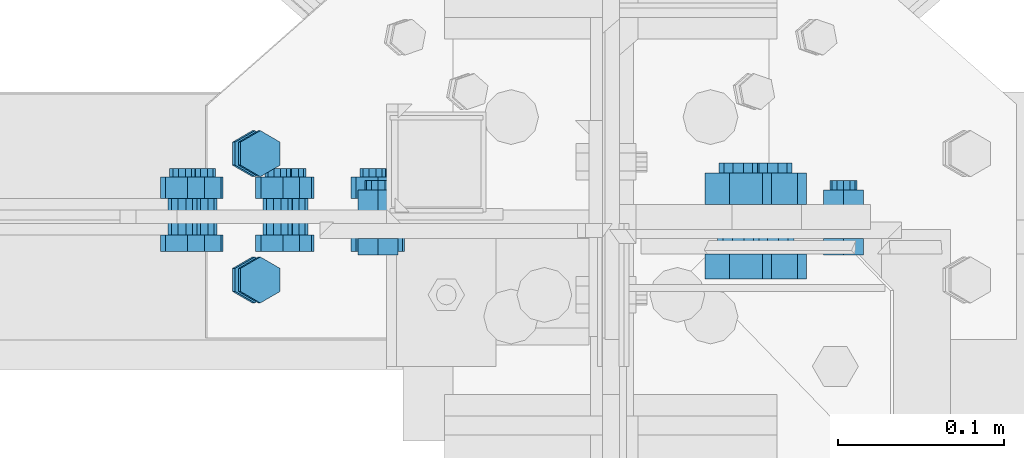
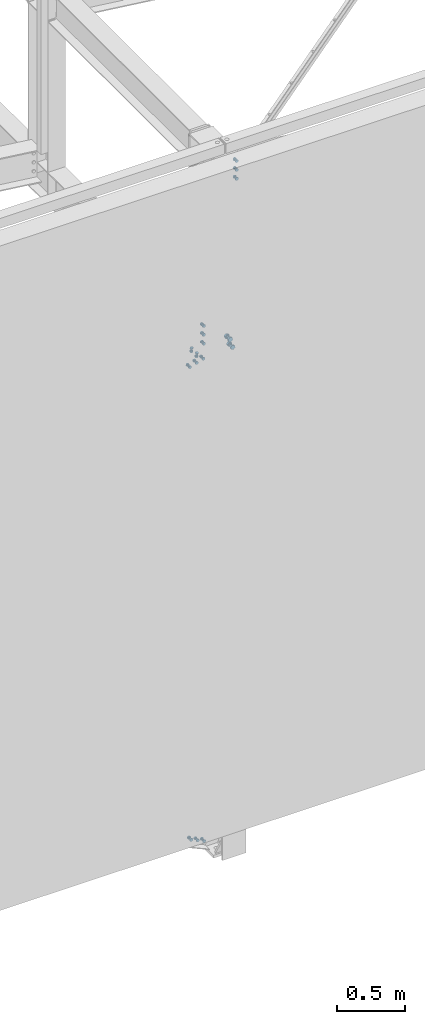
# One storey, part 124 of 3134: 6 mechanical fasteners, 5 elements without a shape of their own.
"""IFC2X3 building model written with IfcOpenShell, lengths in millimetres."""

from ifc_helpers import new_model, si_unit, frame, origin_with_axes, place, context, subcontext, project, spatial, faceted_brep, source, transform, mapped, material, type_object, element, aggregate, save


model = new_model("IFC2X3")

# Units and contexts
model_context = context("Model", 3, precision=1e-05, world=origin_with_axes())
body_context = subcontext(model_context, "Body", "Model", "MODEL_VIEW")
ifc_project = project(units=[si_unit("LENGTHUNIT", "METRE", prefix="MILLI"), si_unit("AREAUNIT", "SQUARE_METRE"), si_unit("VOLUMEUNIT", "CUBIC_METRE"), si_unit("MASSUNIT", "GRAM", prefix="KILO"), si_unit("TIMEUNIT", "SECOND"), si_unit("PLANEANGLEUNIT", "RADIAN"), si_unit("SOLIDANGLEUNIT", "STERADIAN"), si_unit("THERMODYNAMICTEMPERATUREUNIT", "DEGREE_CELSIUS"), si_unit("LUMINOUSINTENSITYUNIT", "LUMEN")], contexts=[model_context])

# Site, building, storey
site_placement = place(None, origin_with_axes())
site = spatial("IfcSite", under=ifc_project, at=site_placement, CompositionType="ELEMENT")
building_placement = place(site_placement, origin_with_axes())
building = spatial("IfcBuilding", under=site, at=building_placement, Name="Undefined", CompositionType="ELEMENT")
storey_placement = place(building_placement, origin_with_axes())
storey = spatial("IfcBuildingStorey", under=building, at=storey_placement, Name="Undefined", CompositionType="ELEMENT", Elevation=0.0)

# Assembly, mechanical fastener
assembly_1_placement = place(storey_placement, origin_with_axes())
assembly_1 = element("IfcElementAssembly", 1, at=assembly_1_placement, inside=storey, Name="300", AssemblyPlace="NOTDEFINED", PredefinedType="RIGID_FRAME")
ifc_material = material(Name="8.8")
mechanical_fastener_type = type_object("IfcMechanicalFastenerType", Name="Bolt assembly")
shared_shape_1 = source(origin_with_axes(), body_context, "Body", "Brep", [
    faceted_brep([(13.856406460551, -23.0499999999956, 0.0), (6.92820323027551, -23.0499999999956, 12.0), (-6.92820323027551, -23.0499999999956, 12.0), (-13.856406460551, -23.0499999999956, 1.69692038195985e-15), (-6.92820323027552, -23.0499999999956, -12.0), (6.9282032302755, -23.0499999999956, -12.0), (6.9282032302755, -13.0499999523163, -12.0), (-6.92820323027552, -13.0499999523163, -12.0), (-13.856406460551, -13.0499999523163, 1.69692038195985e-15), (-6.92820323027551, -13.0499999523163, 12.0), (6.92820323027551, -13.0499999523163, 12.0), (13.856406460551, -13.0499999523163, 0.0), (8.0, -13.0499999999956, 0.0), (6.92820323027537, -13.0499999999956, 4.00000000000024), (3.99999999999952, -13.0499999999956, 6.92820323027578), (-8.29068785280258e-13, -13.0499999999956, 8.0), (-4.00000000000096, -13.0499999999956, 6.92820323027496), (-6.9282032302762, -13.0499999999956, 3.99999999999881), (-8.0, -13.0499999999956, -1.65813757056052e-12), (-6.92820323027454, -13.0499999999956, -4.00000000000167), (-3.99999999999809, -13.0499999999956, -6.92820323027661), (2.47832457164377e-12, -13.0499999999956, -8.0), (4.00000000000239, -13.0499999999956, -6.92820323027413), (6.92820323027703, -13.0499999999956, -3.99999999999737), (6.92820323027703, 21.9500000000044, -3.99999999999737), (4.00000000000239, 21.9500000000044, -6.92820323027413), (2.47832457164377e-12, 21.9500000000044, -8.0), (-3.99999999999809, 21.9500000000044, -6.92820323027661), (-6.92820323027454, 21.9500000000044, -4.00000000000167), (-8.0, 21.9500000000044, -1.65813757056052e-12), (-6.9282032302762, 21.9500000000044, 3.99999999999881), (-4.00000000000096, 21.9500000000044, 6.92820323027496), (-8.29068785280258e-13, 21.9500000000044, 8.0), (3.99999999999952, 21.9500000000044, 6.92820323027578), (6.92820323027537, 21.9500000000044, 4.00000000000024), (8.0, 21.9500000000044, 0.0), (13.856406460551, 3.04999995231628, 0.0), (6.92820323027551, 3.04999995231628, 12.0), (-6.92820323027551, 3.04999995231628, 12.0), (-13.856406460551, 3.04999995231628, 1.69692038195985e-15), (-6.92820323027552, 3.04999995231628, -12.0), (6.9282032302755, 3.04999995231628, -12.0), (6.9282032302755, 16.0499999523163, -12.0), (-6.92820323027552, 16.0499999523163, -12.0), (-13.856406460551, 16.0499999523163, 1.69692038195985e-15), (-6.92820323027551, 16.0499999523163, 12.0), (6.92820323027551, 16.0499999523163, 12.0), (13.856406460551, 16.0499999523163, 0.0)], [[[0, 1, 2, 3, 4, 5]], [[6, 7, 8, 9, 10, 11]], [[0, 11, 10, 1]], [[1, 10, 9, 2]], [[2, 9, 8, 3]], [[3, 8, 7, 4]], [[4, 7, 6, 5]], [[5, 6, 11, 0]], [[12, 13, 14, 15, 16, 17, 18, 19, 20, 21, 22, 23]], [[24, 25, 26, 27, 28, 29, 30, 31, 32, 33, 34, 35]], [[12, 35, 34, 13]], [[13, 34, 33, 14]], [[14, 33, 32, 15]], [[15, 32, 31, 16]], [[16, 31, 30, 17]], [[17, 30, 29, 18]], [[18, 29, 28, 19]], [[19, 28, 27, 20]], [[20, 27, 26, 21]], [[21, 26, 25, 22]], [[22, 25, 24, 23]], [[23, 24, 35, 12]], [[36, 37, 38, 39, 40, 41]], [[42, 43, 44, 45, 46, 47]], [[36, 47, 46, 37]], [[37, 46, 45, 38]], [[38, 45, 44, 39]], [[39, 44, 43, 40]], [[40, 43, 42, 41]], [[41, 42, 47, 36]]]),
    faceted_brep([(9.0, -12.9499999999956, 0.0), (7.79422863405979, -12.9499999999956, 4.50000000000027), (4.49999999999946, -12.9499999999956, 7.79422863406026), (-9.3270238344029e-13, -12.9499999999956, 9.0), (-4.50000000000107, -12.9499999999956, 7.79422863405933), (-7.79422863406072, -12.9499999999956, 4.49999999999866), (-9.0, -12.9499999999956, -1.86540476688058e-12), (-7.79422863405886, -12.9499999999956, -4.50000000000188), (-4.49999999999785, -12.9499999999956, -7.79422863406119), (2.78811514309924e-12, -12.9499999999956, -9.0), (4.50000000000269, -12.9499999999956, -7.7942286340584), (7.79422863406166, -12.9499999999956, -4.49999999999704), (7.79422863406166, -2.94999995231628, -4.49999999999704), (4.50000000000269, -2.94999995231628, -7.7942286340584), (2.78811514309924e-12, -2.94999995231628, -9.0), (-4.49999999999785, -2.94999995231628, -7.79422863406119), (-7.79422863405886, -2.94999995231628, -4.50000000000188), (-9.0, -2.94999995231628, -1.86540476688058e-12), (-7.79422863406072, -2.94999995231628, 4.49999999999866), (-4.50000000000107, -2.94999995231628, 7.79422863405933), (-9.3270238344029e-13, -2.94999995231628, 9.0), (4.49999999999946, -2.94999995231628, 7.79422863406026), (7.79422863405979, -2.94999995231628, 4.50000000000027), (9.0, -2.94999995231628, 0.0), (9.0, -3.14999995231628, 0.0), (7.79422863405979, -3.14999995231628, 4.50000000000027), (4.49999999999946, -3.14999995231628, 7.79422863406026), (-9.3270238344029e-13, -3.14999995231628, 9.0), (-4.50000000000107, -3.14999995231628, 7.79422863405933), (-7.79422863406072, -3.14999995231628, 4.49999999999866), (-9.0, -3.14999995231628, -1.86540476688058e-12), (-7.79422863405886, -3.14999995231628, -4.50000000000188), (-4.49999999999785, -3.14999995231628, -7.79422863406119), (2.78811514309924e-12, -3.14999995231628, -9.0), (4.50000000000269, -3.14999995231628, -7.7942286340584), (7.79422863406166, -3.14999995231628, -4.49999999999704), (7.79422863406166, 3.04999995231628, -4.49999999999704), (4.50000000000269, 3.04999995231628, -7.7942286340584), (2.78811514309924e-12, 3.04999995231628, -9.0), (-4.49999999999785, 3.04999995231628, -7.79422863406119), (-7.79422863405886, 3.04999995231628, -4.50000000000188), (-9.0, 3.04999995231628, -1.86540476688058e-12), (-7.79422863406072, 3.04999995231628, 4.49999999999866), (-4.50000000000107, 3.04999995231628, 7.79422863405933), (-9.3270238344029e-13, 3.04999995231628, 9.0), (4.49999999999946, 3.04999995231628, 7.79422863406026), (7.79422863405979, 3.04999995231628, 4.50000000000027), (9.0, 3.04999995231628, 0.0)], [[[0, 1, 2, 3, 4, 5, 6, 7, 8, 9, 10, 11]], [[12, 13, 14, 15, 16, 17, 18, 19, 20, 21, 22, 23]], [[0, 23, 22, 1]], [[1, 22, 21, 2]], [[2, 21, 20, 3]], [[3, 20, 19, 4]], [[4, 19, 18, 5]], [[5, 18, 17, 6]], [[6, 17, 16, 7]], [[7, 16, 15, 8]], [[8, 15, 14, 9]], [[9, 14, 13, 10]], [[10, 13, 12, 11]], [[11, 12, 23, 0]], [[24, 25, 26, 27, 28, 29, 30, 31, 32, 33, 34, 35]], [[36, 37, 38, 39, 40, 41, 42, 43, 44, 45, 46, 47]], [[24, 47, 46, 25]], [[25, 46, 45, 26]], [[26, 45, 44, 27]], [[27, 44, 43, 28]], [[28, 43, 42, 29]], [[29, 42, 41, 30]], [[30, 41, 40, 31]], [[31, 40, 39, 32]], [[32, 39, 38, 33]], [[33, 38, 37, 34]], [[34, 37, 36, 35]], [[35, 36, 47, 24]]]),
])
mechanical_fastener_1_placement = place(assembly_1_placement, frame((55735.0000000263, 0.0, 4340.49269268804), z_axis=(1.0, 0.0, 0.0), x_axis=(0.0, 0.0, -1.0)))
mechanical_fastener_1 = element("IfcMechanicalFastener", 2, at=mechanical_fastener_1_placement, type_object=mechanical_fastener_type, material=ifc_material, Name="Bolt assembly", NominalDiameter=16.0, NominalLength=35.0, context=body_context, shape_type="MappedRepresentation", body=[
    mapped(shared_shape_1, transform((0.0, 0.0, 0.0))),
    mapped(shared_shape_1, transform((80.0, 0.0, 0.0))),
    mapped(shared_shape_1, transform((160.0, 0.0, 0.0))),
])

assembly_2_placement = place(storey_placement, origin_with_axes())
assembly_2 = element("IfcElementAssembly", 3, at=assembly_2_placement, inside=storey, Name="300", AssemblyPlace="NOTDEFINED", PredefinedType="RIGID_FRAME")
mechanical_fastener_2_placement = place(assembly_2_placement, frame((56015.0041779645, 0.0, 5732.29610612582), z_axis=(1.0, 0.0, 0.0), x_axis=(0.0, 0.0, -1.0)))
mechanical_fastener_2 = element("IfcMechanicalFastener", 4, at=mechanical_fastener_2_placement, type_object=mechanical_fastener_type, material=ifc_material, Name="Bolt assembly", NominalDiameter=16.0, NominalLength=35.0, context=body_context, shape_type="MappedRepresentation", body=[
    mapped(shared_shape_1, transform((0.0, 0.0, 0.0))),
    mapped(shared_shape_1, transform((80.0, 0.0, 0.0))),
    mapped(shared_shape_1, transform((160.0, 0.0, 0.0))),
])
aggregate(assembly_2, [mechanical_fastener_2])

assembly_3_placement = place(storey_placement, origin_with_axes())
assembly_3 = element("IfcElementAssembly", 5, at=assembly_3_placement, inside=storey, AssemblyPlace="NOTDEFINED", PredefinedType="RIGID_FRAME")
shared_shape_2 = source(origin_with_axes(), body_context, "Body", "Brep", [
    faceted_brep([(13.856406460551, -21.0000017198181, 0.0), (6.92820323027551, -21.0000017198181, 12.0), (-6.92820323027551, -21.0000017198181, 12.0), (-13.856406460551, -21.0000017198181, 1.69692038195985e-15), (-6.92820323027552, -21.0000017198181, -12.0), (6.9282032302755, -21.0000017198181, -12.0), (6.9282032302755, -11.0000017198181, -12.0), (-6.92820323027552, -11.0000017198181, -12.0), (-13.856406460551, -11.0000017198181, 1.69692038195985e-15), (-6.92820323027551, -11.0000017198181, 12.0), (6.92820323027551, -11.0000017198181, 12.0), (13.856406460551, -11.0000017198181, 0.0), (8.0, -11.0000017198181, 0.0), (6.92820323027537, -11.0000017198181, 4.00000000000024), (3.99999999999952, -11.0000017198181, 6.92820323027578), (-8.29068785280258e-13, -11.0000017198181, 8.0), (-4.00000000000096, -11.0000017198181, 6.92820323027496), (-6.9282032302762, -11.0000017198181, 3.99999999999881), (-8.0, -11.0000017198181, -1.65813757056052e-12), (-6.92820323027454, -11.0000017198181, -4.00000000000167), (-3.99999999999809, -11.0000017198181, -6.92820323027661), (2.47832457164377e-12, -11.0000017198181, -8.0), (4.00000000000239, -11.0000017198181, -6.92820323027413), (6.92820323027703, -11.0000017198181, -3.99999999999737), (6.92820323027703, 29.0, -3.99999999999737), (4.00000000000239, 29.0, -6.92820323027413), (2.47832457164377e-12, 29.0, -8.0), (-3.99999999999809, 29.0, -6.92820323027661), (-6.92820323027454, 29.0, -4.00000000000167), (-8.0, 29.0, -1.65813757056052e-12), (-6.9282032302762, 29.0, 3.99999999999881), (-4.00000000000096, 29.0, 6.92820323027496), (-8.29068785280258e-13, 29.0, 8.0), (3.99999999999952, 29.0, 6.92820323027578), (6.92820323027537, 29.0, 4.00000000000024), (8.0, 29.0, 0.0), (13.856406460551, 10.9999982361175, 0.0), (6.92820323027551, 10.9999982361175, 12.0), (-6.92820323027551, 10.9999982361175, 12.0), (-13.856406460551, 10.9999982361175, 1.69692038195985e-15), (-6.92820323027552, 10.9999982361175, -12.0), (6.9282032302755, 10.9999982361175, -12.0), (6.9282032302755, 23.9999999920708, -12.0), (-6.92820323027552, 23.9999999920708, -12.0), (-13.856406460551, 23.9999999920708, 1.69692038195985e-15), (-6.92820323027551, 23.9999999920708, 12.0), (6.92820323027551, 23.9999999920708, 12.0), (13.856406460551, 23.9999999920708, 0.0)], [[[0, 1, 2, 3, 4, 5]], [[6, 7, 8, 9, 10, 11]], [[0, 11, 10, 1]], [[1, 10, 9, 2]], [[2, 9, 8, 3]], [[3, 8, 7, 4]], [[4, 7, 6, 5]], [[5, 6, 11, 0]], [[12, 13, 14, 15, 16, 17, 18, 19, 20, 21, 22, 23]], [[24, 25, 26, 27, 28, 29, 30, 31, 32, 33, 34, 35]], [[12, 35, 34, 13]], [[13, 34, 33, 14]], [[14, 33, 32, 15]], [[15, 32, 31, 16]], [[16, 31, 30, 17]], [[17, 30, 29, 18]], [[18, 29, 28, 19]], [[19, 28, 27, 20]], [[20, 27, 26, 21]], [[21, 26, 25, 22]], [[22, 25, 24, 23]], [[23, 24, 35, 12]], [[36, 37, 38, 39, 40, 41]], [[42, 43, 44, 45, 46, 47]], [[36, 47, 46, 37]], [[37, 46, 45, 38]], [[38, 45, 44, 39]], [[39, 44, 43, 40]], [[40, 43, 42, 41]], [[41, 42, 47, 36]]]),
    faceted_brep([(9.0, -10.9000017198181, 0.0), (7.79422863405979, -10.9000017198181, 4.50000000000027), (4.49999999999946, -10.9000017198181, 7.79422863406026), (-9.3270238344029e-13, -10.9000017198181, 9.0), (-4.50000000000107, -10.9000017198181, 7.79422863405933), (-7.79422863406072, -10.9000017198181, 4.49999999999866), (-9.0, -10.9000017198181, -1.86540476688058e-12), (-7.79422863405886, -10.9000017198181, -4.50000000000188), (-4.49999999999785, -10.9000017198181, -7.79422863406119), (2.78811514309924e-12, -10.9000017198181, -9.0), (4.50000000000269, -10.9000017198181, -7.7942286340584), (7.79422863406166, -10.9000017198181, -4.49999999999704), (7.79422863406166, -3.9, -4.49999999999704), (4.50000000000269, -3.9, -7.7942286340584), (2.78811514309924e-12, -3.9, -9.0), (-4.49999999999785, -3.9, -7.79422863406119), (-7.79422863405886, -3.9, -4.50000000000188), (-9.0, -3.9, -1.86540476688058e-12), (-7.79422863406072, -3.9, 4.49999999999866), (-4.50000000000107, -3.9, 7.79422863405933), (-9.3270238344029e-13, -3.9, 9.0), (4.49999999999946, -3.9, 7.79422863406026), (7.79422863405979, -3.9, 4.50000000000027), (9.0, -3.9, 0.0), (9.0, 3.9, 0.0), (7.79422863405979, 3.9, 4.50000000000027), (4.49999999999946, 3.9, 7.79422863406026), (-9.3270238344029e-13, 3.9, 9.0), (-4.50000000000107, 3.9, 7.79422863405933), (-7.79422863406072, 3.9, 4.49999999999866), (-9.0, 3.9, -1.86540476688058e-12), (-7.79422863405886, 3.9, -4.50000000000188), (-4.49999999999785, 3.9, -7.79422863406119), (2.78811514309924e-12, 3.9, -9.0), (4.50000000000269, 3.9, -7.7942286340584), (7.79422863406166, 3.9, -4.49999999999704), (7.79422863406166, 10.9999982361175, -4.49999999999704), (4.50000000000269, 10.9999982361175, -7.7942286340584), (2.78811514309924e-12, 10.9999982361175, -9.0), (-4.49999999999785, 10.9999982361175, -7.79422863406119), (-7.79422863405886, 10.9999982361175, -4.50000000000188), (-9.0, 10.9999982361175, -1.86540476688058e-12), (-7.79422863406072, 10.9999982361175, 4.49999999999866), (-4.50000000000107, 10.9999982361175, 7.79422863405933), (-9.3270238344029e-13, 10.9999982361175, 9.0), (4.49999999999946, 10.9999982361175, 7.79422863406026), (7.79422863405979, 10.9999982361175, 4.50000000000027), (9.0, 10.9999982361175, 0.0), (9.0, -3.99999624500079, 0.0), (7.79422863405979, -3.99999624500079, 4.50000000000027), (4.49999999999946, -3.99999624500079, 7.79422863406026), (-9.3270238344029e-13, -3.99999624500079, 9.0), (-4.50000000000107, -3.99999624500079, 7.79422863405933), (-7.79422863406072, -3.99999624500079, 4.49999999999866), (-9.0, -3.99999624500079, -1.86540476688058e-12), (-7.79422863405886, -3.99999624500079, -4.50000000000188), (-4.49999999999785, -3.99999624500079, -7.79422863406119), (2.78811514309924e-12, -3.99999624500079, -9.0), (4.50000000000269, -3.99999624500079, -7.7942286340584), (7.79422863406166, -3.99999624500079, -4.49999999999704), (7.79422863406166, 4.00000375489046, -4.49999999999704), (4.50000000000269, 4.00000375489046, -7.7942286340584), (2.78811514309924e-12, 4.00000375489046, -9.0), (-4.49999999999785, 4.00000375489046, -7.79422863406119), (-7.79422863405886, 4.00000375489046, -4.50000000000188), (-9.0, 4.00000375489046, -1.86540476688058e-12), (-7.79422863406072, 4.00000375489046, 4.49999999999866), (-4.50000000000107, 4.00000375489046, 7.79422863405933), (-9.3270238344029e-13, 4.00000375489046, 9.0), (4.49999999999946, 4.00000375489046, 7.79422863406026), (7.79422863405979, 4.00000375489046, 4.50000000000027), (9.0, 4.00000375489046, 0.0)], [[[0, 1, 2, 3, 4, 5, 6, 7, 8, 9, 10, 11]], [[12, 13, 14, 15, 16, 17, 18, 19, 20, 21, 22, 23]], [[0, 23, 22, 1]], [[1, 22, 21, 2]], [[2, 21, 20, 3]], [[3, 20, 19, 4]], [[4, 19, 18, 5]], [[5, 18, 17, 6]], [[6, 17, 16, 7]], [[7, 16, 15, 8]], [[8, 15, 14, 9]], [[9, 14, 13, 10]], [[10, 13, 12, 11]], [[11, 12, 23, 0]], [[24, 25, 26, 27, 28, 29, 30, 31, 32, 33, 34, 35]], [[36, 37, 38, 39, 40, 41, 42, 43, 44, 45, 46, 47]], [[24, 47, 46, 25]], [[25, 46, 45, 26]], [[26, 45, 44, 27]], [[27, 44, 43, 28]], [[28, 43, 42, 29]], [[29, 42, 41, 30]], [[30, 41, 40, 31]], [[31, 40, 39, 32]], [[32, 39, 38, 33]], [[33, 38, 37, 34]], [[34, 37, 36, 35]], [[35, 36, 47, 24]], [[48, 49, 50, 51, 52, 53, 54, 55, 56, 57, 58, 59]], [[60, 61, 62, 63, 64, 65, 66, 67, 68, 69, 70, 71]], [[48, 71, 70, 49]], [[49, 70, 69, 50]], [[50, 69, 68, 51]], [[51, 68, 67, 52]], [[52, 67, 66, 53]], [[53, 66, 65, 54]], [[54, 65, 64, 55]], [[55, 64, 63, 56]], [[56, 63, 62, 57]], [[57, 62, 61, 58]], [[58, 61, 60, 59]], [[59, 60, 71, 48]]]),
])
mechanical_fastener_3_placement = place(assembly_3_placement, frame((55629.0104644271, 0.0, -263.693411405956), z_axis=(0.412246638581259, 0.0, 0.911072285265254), x_axis=(0.911072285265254, 0.0, -0.412246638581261)))
mechanical_fastener_3 = element("IfcMechanicalFastener", 6, at=mechanical_fastener_3_placement, type_object=mechanical_fastener_type, material=ifc_material, Name="Bolt assembly", NominalDiameter=16.0, NominalLength=40.0, context=body_context, shape_type="MappedRepresentation", body=[
    mapped(shared_shape_2, transform((0.0, 0.0, 0.0))),
    mapped(shared_shape_2, transform((59.9999999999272, 0.0, 5.40239852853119e-10))),
    mapped(shared_shape_2, transform((120.0, 0.0, 0.0))),
])
aggregate(assembly_3, [mechanical_fastener_3])

assembly_4_placement = place(storey_placement, origin_with_axes())
assembly_4 = element("IfcElementAssembly", 7, at=assembly_4_placement, inside=storey, AssemblyPlace="NOTDEFINED", PredefinedType="RIGID_FRAME")
mechanical_fastener_4_placement = place(assembly_4_placement, frame((55617.2795223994, 0.0, 4009.26244474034), z_axis=(-0.298150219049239, 0.0, 0.954518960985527), x_axis=(0.954518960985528, 0.0, 0.298150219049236)))
mechanical_fastener_4 = element("IfcMechanicalFastener", 8, at=mechanical_fastener_4_placement, type_object=mechanical_fastener_type, material=ifc_material, Name="Bolt assembly", NominalDiameter=16.0, NominalLength=40.0, context=body_context, shape_type="MappedRepresentation", body=[
    mapped(shared_shape_2, transform((0.0, 0.0, 0.0))),
    mapped(shared_shape_2, transform((59.9999999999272, 0.0, 5.40239852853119e-10))),
    mapped(shared_shape_2, transform((120.0, 0.0, 0.0))),
])
aggregate(assembly_4, [mechanical_fastener_4])

# Mechanical fastener
shared_shape_3 = source(origin_with_axes(), body_context, "Body", "Brep", [
    faceted_brep([(13.856406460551, -19.2035068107, 0.0), (6.92820323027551, -19.2035068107, 12.0), (-6.92820323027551, -19.2035068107, 12.0), (-13.856406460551, -19.2035068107, 1.69692038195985e-15), (-6.92820323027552, -19.2035068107, -12.0), (6.9282032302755, -19.2035068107, -12.0), (6.9282032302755, -9.20350681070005, -12.0), (-6.92820323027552, -9.20350681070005, -12.0), (-13.856406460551, -9.20350681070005, 1.69692038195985e-15), (-6.92820323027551, -9.20350681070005, 12.0), (6.92820323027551, -9.20350681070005, 12.0), (13.856406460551, -9.20350681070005, 0.0), (8.0, -9.20350681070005, 0.0), (6.92820323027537, -9.20350681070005, 4.00000000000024), (3.99999999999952, -9.20350681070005, 6.92820323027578), (-8.29068785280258e-13, -9.20350681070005, 8.0), (-4.00000000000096, -9.20350681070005, 6.92820323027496), (-6.9282032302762, -9.20350681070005, 3.99999999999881), (-8.0, -9.20350681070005, -1.65813757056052e-12), (-6.92820323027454, -9.20350681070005, -4.00000000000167), (-3.99999999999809, -9.20350681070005, -6.92820323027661), (2.47832457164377e-12, -9.20350681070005, -8.0), (4.00000000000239, -9.20350681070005, -6.92820323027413), (6.92820323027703, -9.20350681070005, -3.99999999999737), (6.92820323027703, 25.7964931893, -3.99999999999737), (4.00000000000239, 25.7964931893, -6.92820323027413), (2.47832457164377e-12, 25.7964931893, -8.0), (-3.99999999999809, 25.7964931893, -6.92820323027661), (-6.92820323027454, 25.7964931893, -4.00000000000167), (-8.0, 25.7964931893, -1.65813757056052e-12), (-6.9282032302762, 25.7964931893, 3.99999999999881), (-4.00000000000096, 25.7964931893, 6.92820323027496), (-8.29068785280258e-13, 25.7964931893, 8.0), (3.99999999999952, 25.7964931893, 6.92820323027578), (6.92820323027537, 25.7964931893, 4.00000000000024), (8.0, 25.7964931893, 0.0), (13.856406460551, 7.99368960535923, 0.0), (6.92820323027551, 7.99368960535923, 12.0), (-6.92820323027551, 7.99368960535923, 12.0), (-13.856406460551, 7.99368960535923, 1.69692038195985e-15), (-6.92820323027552, 7.99368960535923, -12.0), (6.9282032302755, 7.99368960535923, -12.0), (6.9282032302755, 20.9936896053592, -12.0), (-6.92820323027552, 20.9936896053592, -12.0), (-13.856406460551, 20.9936896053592, 1.69692038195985e-15), (-6.92820323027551, 20.9936896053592, 12.0), (6.92820323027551, 20.9936896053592, 12.0), (13.856406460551, 20.9936896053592, 0.0)], [[[0, 1, 2, 3, 4, 5]], [[6, 7, 8, 9, 10, 11]], [[0, 11, 10, 1]], [[1, 10, 9, 2]], [[2, 9, 8, 3]], [[3, 8, 7, 4]], [[4, 7, 6, 5]], [[5, 6, 11, 0]], [[12, 13, 14, 15, 16, 17, 18, 19, 20, 21, 22, 23]], [[24, 25, 26, 27, 28, 29, 30, 31, 32, 33, 34, 35]], [[12, 35, 34, 13]], [[13, 34, 33, 14]], [[14, 33, 32, 15]], [[15, 32, 31, 16]], [[16, 31, 30, 17]], [[17, 30, 29, 18]], [[18, 29, 28, 19]], [[19, 28, 27, 20]], [[20, 27, 26, 21]], [[21, 26, 25, 22]], [[22, 25, 24, 23]], [[23, 24, 35, 12]], [[36, 37, 38, 39, 40, 41]], [[42, 43, 44, 45, 46, 47]], [[36, 47, 46, 37]], [[37, 46, 45, 38]], [[38, 45, 44, 39]], [[39, 44, 43, 40]], [[40, 43, 42, 41]], [[41, 42, 47, 36]]]),
    faceted_brep([(9.0, -0.106310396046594, 0.0), (7.79422863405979, -0.106310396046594, 4.50000000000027), (4.49999999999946, -0.106310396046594, 7.79422863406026), (-9.3270238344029e-13, -0.106310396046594, 9.0), (-4.50000000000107, -0.106310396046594, 7.79422863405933), (-7.79422863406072, -0.106310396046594, 4.49999999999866), (-9.0, -0.106310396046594, -1.86540476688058e-12), (-7.79422863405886, -0.106310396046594, -4.50000000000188), (-4.49999999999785, -0.106310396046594, -7.79422863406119), (2.78811514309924e-12, -0.106310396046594, -9.0), (4.50000000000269, -0.106310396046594, -7.7942286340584), (7.79422863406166, -0.106310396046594, -4.49999999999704), (7.79422863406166, 7.99368960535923, -4.49999999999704), (4.50000000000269, 7.99368960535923, -7.7942286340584), (2.78811514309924e-12, 7.99368960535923, -9.0), (-4.49999999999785, 7.99368960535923, -7.79422863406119), (-7.79422863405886, 7.99368960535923, -4.50000000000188), (-9.0, 7.99368960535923, -1.86540476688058e-12), (-7.79422863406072, 7.99368960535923, 4.49999999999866), (-4.50000000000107, 7.99368960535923, 7.79422863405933), (-9.3270238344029e-13, 7.99368960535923, 9.0), (4.49999999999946, 7.99368960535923, 7.79422863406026), (7.79422863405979, 7.99368960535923, 4.50000000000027), (9.0, 7.99368960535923, 0.0), (9.0, -9.10350681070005, 0.0), (7.79422863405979, -9.10350681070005, 4.50000000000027), (4.49999999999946, -9.10350681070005, 7.79422863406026), (-9.3270238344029e-13, -9.10350681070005, 9.0), (-4.50000000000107, -9.10350681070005, 7.79422863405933), (-7.79422863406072, -9.10350681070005, 4.49999999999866), (-9.0, -9.10350681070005, -1.86540476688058e-12), (-7.79422863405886, -9.10350681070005, -4.50000000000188), (-4.49999999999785, -9.10350681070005, -7.79422863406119), (2.78811514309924e-12, -9.10350681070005, -9.0), (4.50000000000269, -9.10350681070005, -7.7942286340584), (7.79422863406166, -9.10350681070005, -4.49999999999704), (7.79422863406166, 0.0964929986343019, -4.49999999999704), (4.50000000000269, 0.0964929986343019, -7.7942286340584), (2.78811514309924e-12, 0.0964929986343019, -9.0), (-4.49999999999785, 0.0964929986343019, -7.79422863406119), (-7.79422863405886, 0.0964929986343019, -4.50000000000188), (-9.0, 0.0964929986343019, -1.86540476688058e-12), (-7.79422863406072, 0.0964929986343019, 4.49999999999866), (-4.50000000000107, 0.0964929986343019, 7.79422863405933), (-9.3270238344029e-13, 0.0964929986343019, 9.0), (4.49999999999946, 0.0964929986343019, 7.79422863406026), (7.79422863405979, 0.0964929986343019, 4.50000000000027), (9.0, 0.0964929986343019, 0.0)], [[[0, 1, 2, 3, 4, 5, 6, 7, 8, 9, 10, 11]], [[12, 13, 14, 15, 16, 17, 18, 19, 20, 21, 22, 23]], [[0, 23, 22, 1]], [[1, 22, 21, 2]], [[2, 21, 20, 3]], [[3, 20, 19, 4]], [[4, 19, 18, 5]], [[5, 18, 17, 6]], [[6, 17, 16, 7]], [[7, 16, 15, 8]], [[8, 15, 14, 9]], [[9, 14, 13, 10]], [[10, 13, 12, 11]], [[11, 12, 23, 0]], [[24, 25, 26, 27, 28, 29, 30, 31, 32, 33, 34, 35]], [[36, 37, 38, 39, 40, 41, 42, 43, 44, 45, 46, 47]], [[24, 47, 46, 25]], [[25, 46, 45, 26]], [[26, 45, 44, 27]], [[27, 44, 43, 28]], [[28, 43, 42, 29]], [[29, 42, 41, 30]], [[30, 41, 40, 31]], [[31, 40, 39, 32]], [[32, 39, 38, 33]], [[33, 38, 37, 34]], [[34, 37, 36, 35]], [[35, 36, 47, 24]]]),
])
mechanical_fastener_5_placement = place(assembly_1_placement, frame((55661.7539629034, 37.9995130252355, 4119.8354625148), z_axis=(0.992623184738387, -1.63108538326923e-05, -0.12124031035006), x_axis=(-1.62000016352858e-05, -0.999999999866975, 1.90000018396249e-06)))
mechanical_fastener_5 = element("IfcMechanicalFastener", 9, at=mechanical_fastener_5_placement, type_object=mechanical_fastener_type, material=ifc_material, Name="Bolt assembly", NominalDiameter=16.0, NominalLength=35.0, context=body_context, shape_type="MappedRepresentation", body=[
    mapped(shared_shape_3, transform((0.0, 0.0, 0.0))),
    mapped(shared_shape_3, transform((76.0, 0.0, 0.0))),
])

aggregate(assembly_1, [mechanical_fastener_5, mechanical_fastener_1])

# Assembly, mechanical fastener
assembly_5_placement = place(storey_placement, origin_with_axes())
assembly_5 = element("IfcElementAssembly", 10, at=assembly_5_placement, inside=storey, Name="IPE500", AssemblyPlace="NOTDEFINED", PredefinedType="RIGID_FRAME")
shared_shape_4 = source(origin_with_axes(), body_context, "Body", "Brep", [
    faceted_brep([(20.7846096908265, -37.5, 0.0), (10.3923048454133, -37.5, 18.0), (-10.3923048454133, -37.5, 18.0), (-20.7846096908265, -37.5, 2.54538057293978e-15), (-10.3923048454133, -37.5, -18.0), (10.3923048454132, -37.5, -18.0), (10.3923048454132, -22.5, -18.0), (-10.3923048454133, -22.5, -18.0), (-20.7846096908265, -22.5, 2.54538057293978e-15), (-10.3923048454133, -22.5, 18.0), (10.3923048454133, -22.5, 18.0), (20.7846096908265, -22.5, 0.0), (12.0, -22.5, 0.0), (10.3923048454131, -22.5, 6.00000000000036), (5.99999999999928, -22.5, 10.3923048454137), (-1.24360317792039e-12, -22.5, 12.0), (-6.00000000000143, -22.5, 10.3923048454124), (-10.3923048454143, -22.5, 5.99999999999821), (-12.0, -22.5, -2.48720635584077e-12), (-10.3923048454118, -22.5, -6.00000000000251), (-5.99999999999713, -22.5, -10.3923048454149), (3.71748685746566e-12, -22.5, -12.0), (6.00000000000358, -22.5, -10.3923048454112), (10.3923048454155, -22.5, -5.99999999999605), (10.3923048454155, 32.5, -5.99999999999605), (6.00000000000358, 32.5, -10.3923048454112), (3.71748685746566e-12, 32.5, -12.0), (-5.99999999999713, 32.5, -10.3923048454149), (-10.3923048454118, 32.5, -6.00000000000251), (-12.0, 32.5, -2.48720635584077e-12), (-10.3923048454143, 32.5, 5.99999999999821), (-6.00000000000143, 32.5, 10.3923048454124), (-1.24360317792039e-12, 32.5, 12.0), (5.99999999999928, 32.5, 10.3923048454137), (10.3923048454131, 32.5, 6.00000000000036), (12.0, 32.5, 0.0), (20.7846096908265, 7.5, 0.0), (10.3923048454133, 7.5, 18.0), (-10.3923048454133, 7.5, 18.0), (-20.7846096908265, 7.5, 2.54538057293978e-15), (-10.3923048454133, 7.5, -18.0), (10.3923048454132, 7.5, -18.0), (10.3923048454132, 26.5, -18.0), (-10.3923048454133, 26.5, -18.0), (-20.7846096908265, 26.5, 2.54538057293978e-15), (-10.3923048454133, 26.5, 18.0), (10.3923048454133, 26.5, 18.0), (20.7846096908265, 26.5, 0.0)], [[[0, 1, 2, 3, 4, 5]], [[6, 7, 8, 9, 10, 11]], [[0, 11, 10, 1]], [[1, 10, 9, 2]], [[2, 9, 8, 3]], [[3, 8, 7, 4]], [[4, 7, 6, 5]], [[5, 6, 11, 0]], [[12, 13, 14, 15, 16, 17, 18, 19, 20, 21, 22, 23]], [[24, 25, 26, 27, 28, 29, 30, 31, 32, 33, 34, 35]], [[12, 35, 34, 13]], [[13, 34, 33, 14]], [[14, 33, 32, 15]], [[15, 32, 31, 16]], [[16, 31, 30, 17]], [[17, 30, 29, 18]], [[18, 29, 28, 19]], [[19, 28, 27, 20]], [[20, 27, 26, 21]], [[21, 26, 25, 22]], [[22, 25, 24, 23]], [[23, 24, 35, 12]], [[36, 37, 38, 39, 40, 41]], [[42, 43, 44, 45, 46, 47]], [[36, 47, 46, 37]], [[37, 46, 45, 38]], [[38, 45, 44, 39]], [[39, 44, 43, 40]], [[40, 43, 42, 41]], [[41, 42, 47, 36]]]),
    faceted_brep([(13.0, -22.4, 0.0), (11.2583302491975, -22.4, 6.50000000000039), (6.49999999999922, -22.4, 11.2583302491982), (-1.34723677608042e-12, -22.4, 13.0), (-6.50000000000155, -22.4, 11.2583302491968), (-11.2583302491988, -22.4, 6.49999999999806), (-13.0, -22.4, -2.69447355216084e-12), (-11.2583302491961, -22.4, -6.50000000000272), (-6.4999999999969, -22.4, -11.2583302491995), (4.02727742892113e-12, -22.4, -13.0), (6.50000000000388, -22.4, -11.2583302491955), (11.2583302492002, -22.4, -6.49999999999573), (11.2583302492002, -7.40000000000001, -6.49999999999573), (6.50000000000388, -7.40000000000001, -11.2583302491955), (4.02727742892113e-12, -7.40000000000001, -13.0), (-6.4999999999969, -7.40000000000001, -11.2583302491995), (-11.2583302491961, -7.40000000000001, -6.50000000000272), (-13.0, -7.40000000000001, -2.69447355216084e-12), (-11.2583302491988, -7.40000000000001, 6.49999999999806), (-6.50000000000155, -7.40000000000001, 11.2583302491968), (-1.34723677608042e-12, -7.40000000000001, 13.0), (6.49999999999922, -7.40000000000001, 11.2583302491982), (11.2583302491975, -7.40000000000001, 6.50000000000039), (13.0, -7.40000000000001, 0.0), (13.0, -7.6, 0.0), (11.2583302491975, -7.6, 6.50000000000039), (6.49999999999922, -7.6, 11.2583302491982), (-1.34723677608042e-12, -7.6, 13.0), (-6.50000000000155, -7.6, 11.2583302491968), (-11.2583302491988, -7.6, 6.49999999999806), (-13.0, -7.6, -2.69447355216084e-12), (-11.2583302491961, -7.6, -6.50000000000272), (-6.4999999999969, -7.6, -11.2583302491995), (4.02727742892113e-12, -7.6, -13.0), (6.50000000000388, -7.6, -11.2583302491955), (11.2583302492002, -7.6, -6.49999999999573), (11.2583302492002, 7.5, -6.49999999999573), (6.50000000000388, 7.5, -11.2583302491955), (4.02727742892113e-12, 7.5, -13.0), (-6.4999999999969, 7.5, -11.2583302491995), (-11.2583302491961, 7.5, -6.50000000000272), (-13.0, 7.5, -2.69447355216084e-12), (-11.2583302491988, 7.5, 6.49999999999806), (-6.50000000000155, 7.5, 11.2583302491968), (-1.34723677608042e-12, 7.5, 13.0), (6.49999999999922, 7.5, 11.2583302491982), (11.2583302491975, 7.5, 6.50000000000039), (13.0, 7.5, 0.0)], [[[0, 1, 2, 3, 4, 5, 6, 7, 8, 9, 10, 11]], [[12, 13, 14, 15, 16, 17, 18, 19, 20, 21, 22, 23]], [[0, 23, 22, 1]], [[1, 22, 21, 2]], [[2, 21, 20, 3]], [[3, 20, 19, 4]], [[4, 19, 18, 5]], [[5, 18, 17, 6]], [[6, 17, 16, 7]], [[7, 16, 15, 8]], [[8, 15, 14, 9]], [[9, 14, 13, 10]], [[10, 13, 12, 11]], [[11, 12, 23, 0]], [[24, 25, 26, 27, 28, 29, 30, 31, 32, 33, 34, 35]], [[36, 37, 38, 39, 40, 41, 42, 43, 44, 45, 46, 47]], [[24, 47, 46, 25]], [[25, 46, 45, 26]], [[26, 45, 44, 27]], [[27, 44, 43, 28]], [[28, 43, 42, 29]], [[29, 42, 41, 30]], [[30, 41, 40, 31]], [[31, 40, 39, 32]], [[32, 39, 38, 33]], [[33, 38, 37, 34]], [[34, 37, 36, 35]], [[35, 36, 47, 24]]]),
])
mechanical_fastener_6_placement = place(assembly_5_placement, frame((55951.7262597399, 0.0, 4151.8731173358), z_axis=(0.965573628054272, 0.0, 0.260129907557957), x_axis=(0.260129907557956, 0.0, -0.965573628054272)))
mechanical_fastener_6 = element("IfcMechanicalFastener", 11, at=mechanical_fastener_6_placement, type_object=mechanical_fastener_type, material=ifc_material, Name="Bolt assembly", NominalDiameter=24.0, NominalLength=55.0, context=body_context, shape_type="MappedRepresentation", body=[
    mapped(shared_shape_4, transform((0.0, 0.0, 0.0))),
    mapped(shared_shape_4, transform((80.0, 0.0, 0.0))),
])
aggregate(assembly_5, [mechanical_fastener_6])

save(model, "model.ifc")
